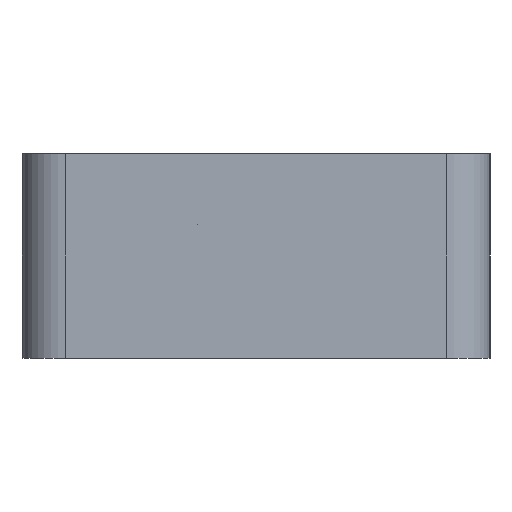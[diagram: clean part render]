
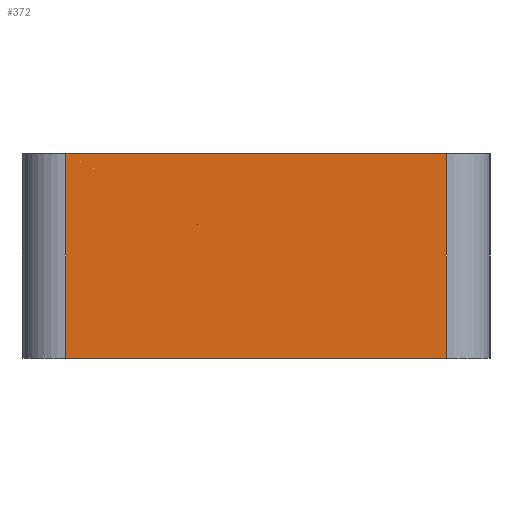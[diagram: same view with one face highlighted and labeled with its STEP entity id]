
A CAD part, left-side view. The second image highlights one B-rep face of the part: STEP entity #372.
In plain terms, the highlighted planar face has unit normal (-1, 0, 0).
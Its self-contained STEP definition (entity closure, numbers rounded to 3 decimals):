
#67=ORIENTED_EDGE('',*,*,#163,.F.);
#68=ORIENTED_EDGE('',*,*,#167,.T.);
#69=ORIENTED_EDGE('',*,*,#151,.T.);
#70=ORIENTED_EDGE('',*,*,#168,.T.);
#151=EDGE_CURVE('',#202,#203,#233,.T.);
#163=EDGE_CURVE('',#212,#213,#240,.T.);
#167=EDGE_CURVE('',#212,#202,#243,.T.);
#168=EDGE_CURVE('',#203,#213,#244,.F.);
#202=VERTEX_POINT('',#564);
#203=VERTEX_POINT('',#565);
#212=VERTEX_POINT('',#587);
#213=VERTEX_POINT('',#589);
#233=LINE('',#563,#273);
#240=LINE('',#588,#280);
#243=LINE('',#596,#283);
#244=LINE('',#597,#284);
#273=VECTOR('',#455,1000.);
#280=VECTOR('',#476,1000.);
#283=VECTOR('',#483,1000.);
#284=VECTOR('',#484,1000.);
#312=EDGE_LOOP('',(#67,#68,#69,#70));
#336=FACE_BOUND('',#312,.T.);
#358=PLANE('',#415);
#372=ADVANCED_FACE('',(#336),#358,.T.);
#415=AXIS2_PLACEMENT_3D('',#595,#481,#482);
#455=DIRECTION('',(0.,-1.,0.));
#476=DIRECTION('',(0.,-1.,0.));
#481=DIRECTION('',(-1.,0.,0.));
#482=DIRECTION('',(0.,0.,1.));
#483=DIRECTION('',(0.,0.,-1.));
#484=DIRECTION('',(0.,0.,-1.));
#563=CARTESIAN_POINT('',(-28.5,25.,-3.5));
#564=CARTESIAN_POINT('',(-28.5,19.,-3.5));
#565=CARTESIAN_POINT('',(-28.5,6.,-3.5));
#587=CARTESIAN_POINT('',(-28.5,19.,3.5));
#588=CARTESIAN_POINT('',(-28.5,25.,3.5));
#589=CARTESIAN_POINT('',(-28.5,6.,3.5));
#595=CARTESIAN_POINT('',(-28.5,25.,3.5));
#596=CARTESIAN_POINT('',(-28.5,19.,-3.5));
#597=CARTESIAN_POINT('',(-28.5,6.,3.5));
